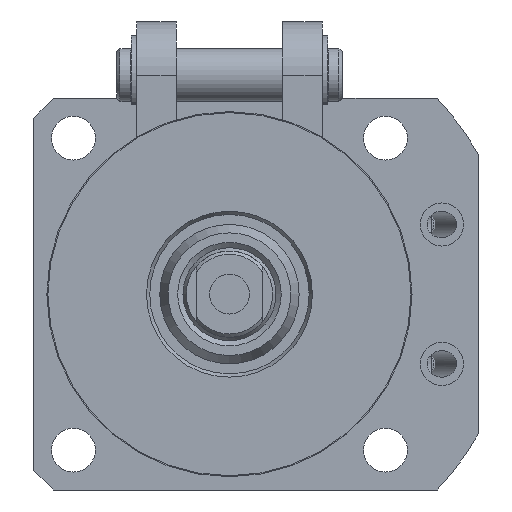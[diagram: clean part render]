
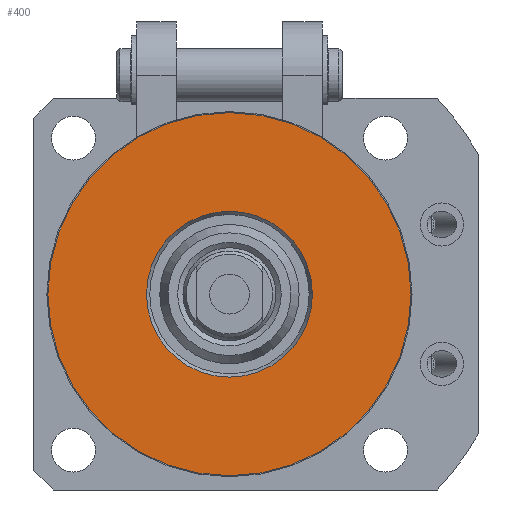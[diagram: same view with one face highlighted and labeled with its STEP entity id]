
A CAD part, front view. The second image highlights one B-rep face of the part: STEP entity #400.
In plain terms, the highlighted planar face has unit normal (0, -1, 0).
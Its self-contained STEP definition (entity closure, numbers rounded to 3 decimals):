
#400 = ADVANCED_FACE( '', ( #812, #813 ), #814, .T. );
#812 = FACE_OUTER_BOUND( '', #1547, .T. );
#813 = FACE_BOUND( '', #1548, .T. );
#814 = PLANE( '', #1549 );
#1547 = EDGE_LOOP( '', ( #2644 ) );
#1548 = EDGE_LOOP( '', ( #2645 ) );
#1549 = AXIS2_PLACEMENT_3D( '', #2646, #2647, #2648 );
#2644 = ORIENTED_EDGE( '', *, *, #4593, .T. );
#2645 = ORIENTED_EDGE( '', *, *, #4594, .F. );
#2646 = CARTESIAN_POINT( '', ( 0., -57., 0. ) );
#2647 = DIRECTION( '', ( 0., -1., 0. ) );
#2648 = DIRECTION( '', ( -1., 0., 0. ) );
#4593 = EDGE_CURVE( '', #5451, #5451, #5452, .T. );
#4594 = EDGE_CURVE( '', #5453, #5453, #5454, .T. );
#5451 = VERTEX_POINT( '', #6974 );
#5452 = CIRCLE( '', #6975, 27.35 );
#5453 = VERTEX_POINT( '', #6976 );
#5454 = CIRCLE( '', #6977, 12.5 );
#6974 = CARTESIAN_POINT( '', ( 27.35, -57., 0. ) );
#6975 = AXIS2_PLACEMENT_3D( '', #8379, #8380, #8381 );
#6976 = CARTESIAN_POINT( '', ( 0., -57., -12.5 ) );
#6977 = AXIS2_PLACEMENT_3D( '', #8382, #8383, #8384 );
#8379 = CARTESIAN_POINT( '', ( 0., -57., 0. ) );
#8380 = DIRECTION( '', ( 0., -1., 0. ) );
#8381 = DIRECTION( '', ( 1., 0., 0. ) );
#8382 = CARTESIAN_POINT( '', ( 0., -57., 0. ) );
#8383 = DIRECTION( '', ( 0., -1., 0. ) );
#8384 = DIRECTION( '', ( 0., 0., -1. ) );
